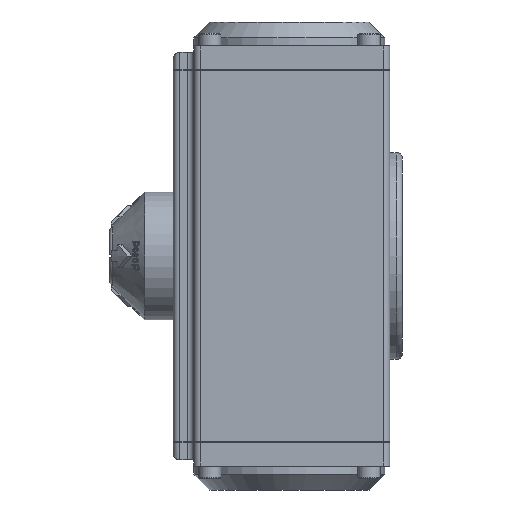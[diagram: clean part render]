
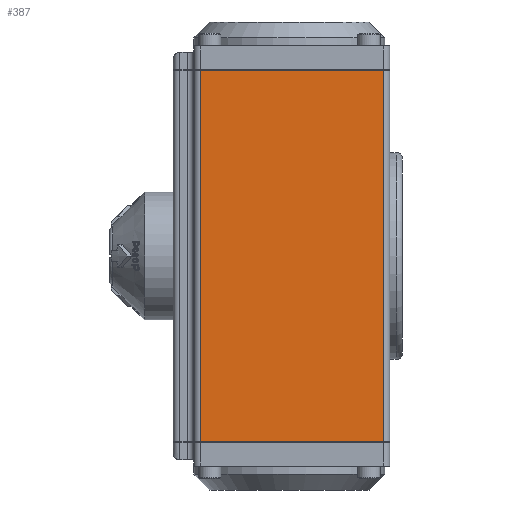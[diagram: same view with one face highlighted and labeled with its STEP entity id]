
A CAD part, left-side view. The second image highlights one B-rep face of the part: STEP entity #387.
In plain terms, the highlighted planar face has unit normal (-1, 0, 0).
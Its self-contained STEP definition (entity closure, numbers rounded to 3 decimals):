
#387=ADVANCED_FACE('',(#9232),#9234,.T.);
#9232=FACE_BOUND('',#9233,.T.);
#9233=EDGE_LOOP('',(#16360,#16361,#16362,#16363));
#9234=PLANE('',#9235);
#9235=AXIS2_PLACEMENT_3D('',#9236,#9237,#9238);
#9236=CARTESIAN_POINT('',(-35.,30.,-66.));
#9237=DIRECTION('',(-1.,0.,0.));
#9238=DIRECTION('',(0.,-1.,0.));
#16360=ORIENTED_EDGE('',*,*,#22366,.T.);
#16361=ORIENTED_EDGE('',*,*,#22367,.T.);
#16362=ORIENTED_EDGE('',*,*,#22248,.T.);
#16363=ORIENTED_EDGE('',*,*,#22365,.F.);
#22248=EDGE_CURVE('',#24782,#24780,#24783,.T.);
#22365=EDGE_CURVE('',#24994,#24780,#24996,.T.);
#22366=EDGE_CURVE('',#24994,#24997,#24998,.F.);
#22367=EDGE_CURVE('',#24997,#24782,#24999,.T.);
#24780=VERTEX_POINT('',#28955);
#24782=VERTEX_POINT('',#28960);
#24783=LINE('',#28961,#28962);
#24994=VERTEX_POINT('',#29443);
#24996=LINE('',#29448,#29449);
#24997=VERTEX_POINT('',#29451);
#24998=LINE('',#29452,#29453);
#24999=LINE('',#29455,#29456);
#28955=CARTESIAN_POINT('',(-35.,28.,58.4));
#28960=CARTESIAN_POINT('',(-35.,-29.5,58.4));
#28961=CARTESIAN_POINT('',(-35.,-29.5,58.4));
#28962=VECTOR('',#28963,1.);
#28963=DIRECTION('',(0.,1.,0.));
#29443=CARTESIAN_POINT('',(-35.,28.,-58.4));
#29448=CARTESIAN_POINT('',(-35.,28.,-58.4));
#29449=VECTOR('',#29450,1.);
#29450=DIRECTION('',(0.,0.,1.));
#29451=CARTESIAN_POINT('',(-35.,-29.5,-58.4));
#29452=CARTESIAN_POINT('',(-35.,-29.5,-58.4));
#29453=VECTOR('',#29454,1.);
#29454=DIRECTION('',(0.,1.,0.));
#29455=CARTESIAN_POINT('',(-35.,-29.5,-58.4));
#29456=VECTOR('',#29457,1.);
#29457=DIRECTION('',(0.,0.,1.));
